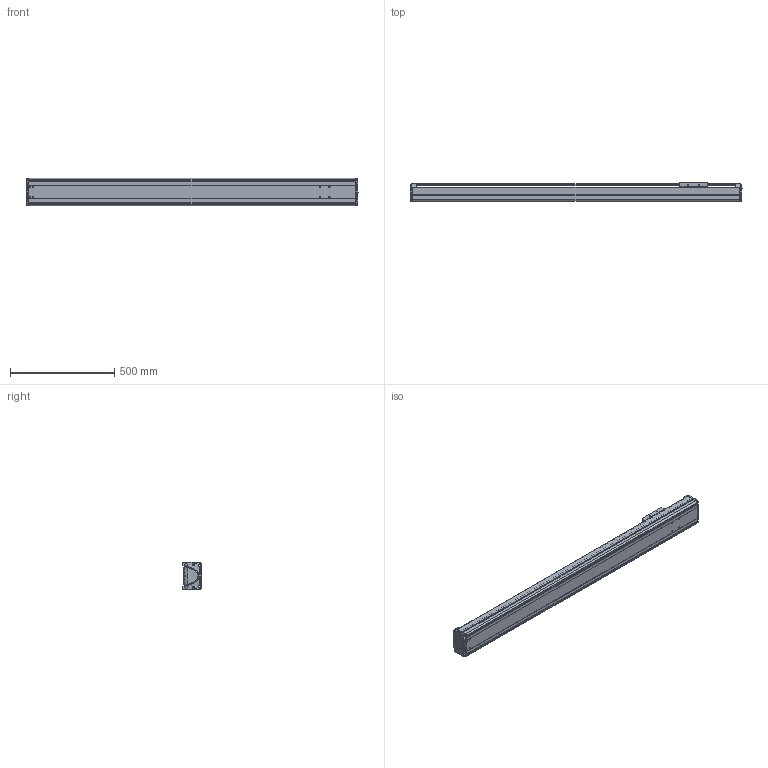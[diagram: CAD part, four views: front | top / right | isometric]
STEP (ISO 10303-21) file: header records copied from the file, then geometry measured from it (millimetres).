
FILE_DESCRIPTION((''),'2;1');
FILE_NAME('BE30E-ST-M_N-C5_IGS_PRT','2017-06-17T',(' '),(''),'PRO/ENGINEER BY PARAMETRIC TECHNOLOGY CORPORATION, 2015030','PRO/ENGINEER BY PARAMETRIC TECHNOLOGY CORPORATION, 2015030','');
FILE_SCHEMA(('CONFIG_CONTROL_DESIGN'));
Length unit declared in the file: millimetre
Products named in the file (1): BE30E-ST-M_N-C5_IGS_PRT
Bounding box: 1590 x 89.8 x 130 mm (x, y, z)
Volume: 4786501.3 mm3; surface area: 1868466.3 mm2
Topology: 3 solids, 100 shells, 1424 faces, 3846 edges, 2517 vertices
Faces by surface type: cylinder 671, plane 602, bspline 55, torus 42, cone 30, sphere 24
Entity records: 47983 total; most frequent: CARTESIAN_POINT 12021, DIRECTION 7427, ORIENTED_EDGE 7266, EDGE_CURVE 3826, AXIS2_PLACEMENT_3D 2708, VERTEX_POINT 2517, VECTOR 2011, LINE 2011
